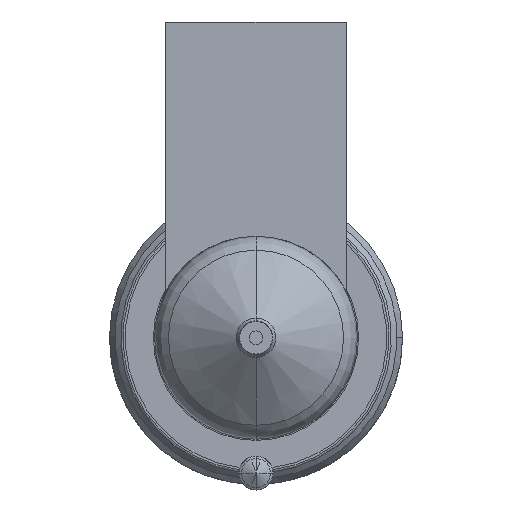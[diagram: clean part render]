
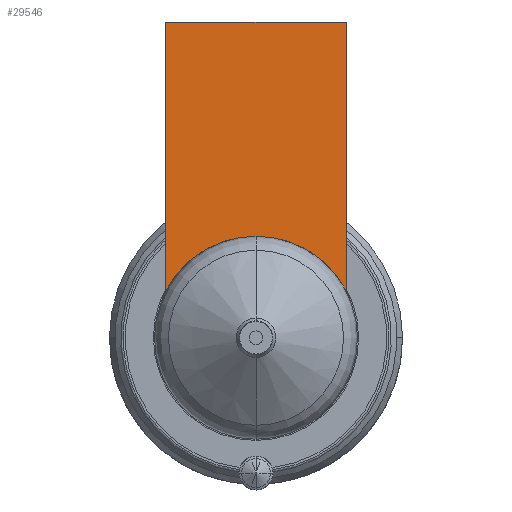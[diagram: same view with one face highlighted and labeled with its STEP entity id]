
A CAD part, front view. The second image highlights one B-rep face of the part: STEP entity #29546.
In plain terms, the highlighted planar face has unit normal (0, -1, 0).
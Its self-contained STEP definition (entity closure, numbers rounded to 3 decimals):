
#28893=DIRECTION('',(1.,0.,0.));
#28894=VECTOR('',#28893,16.);
#28895=CARTESIAN_POINT('',(-8.,-54.,28.));
#28896=LINE('',#28895,#28894);
#28901=CARTESIAN_POINT('',(0.,-54.,0.));
#28902=DIRECTION('',(0.,-1.,0.));
#28903=DIRECTION('',(0.889,0.,0.458));
#28904=AXIS2_PLACEMENT_3D('',#28901,#28902,#28903);
#28909=CARTESIAN_POINT('',(0.,-54.,0.));
#28910=DIRECTION('',(0.,-1.,0.));
#28911=DIRECTION('',(0.,0.,1.));
#28912=AXIS2_PLACEMENT_3D('',#28909,#28910,#28911);
#28938=DIRECTION('',(0.,0.,-1.));
#28939=VECTOR('',#28938,23.877);
#28940=CARTESIAN_POINT('',(-8.,-54.,28.));
#28941=LINE('',#28940,#28939);
#29418=DIRECTION('',(0.,0.,-1.));
#29419=VECTOR('',#29418,23.877);
#29420=CARTESIAN_POINT('',(8.,-54.,28.));
#29421=LINE('',#29420,#29419);
#29471=CARTESIAN_POINT('',(-8.,-54.,28.));
#29472=VERTEX_POINT('',#29471);
#29477=CARTESIAN_POINT('',(8.,-54.,28.));
#29478=VERTEX_POINT('',#29477);
#29481=CARTESIAN_POINT('',(-8.,-54.,4.123));
#29482=VERTEX_POINT('',#29481);
#29485=CARTESIAN_POINT('',(8.,-54.,4.123));
#29486=VERTEX_POINT('',#29485);
#29527=CARTESIAN_POINT('',(0.,-54.,9.));
#29528=VERTEX_POINT('',#29527);
#29529=CARTESIAN_POINT('',(0.,-54.,9.));
#29530=DIRECTION('',(0.,1.,0.));
#29531=DIRECTION('',(0.,0.,-1.));
#29532=AXIS2_PLACEMENT_3D('',#29529,#29530,#29531);
#29533=PLANE('',#29532);
#29535=ORIENTED_EDGE('',*,*,#29534,.F.);
#29537=ORIENTED_EDGE('',*,*,#29536,.T.);
#29539=ORIENTED_EDGE('',*,*,#29538,.T.);
#29541=ORIENTED_EDGE('',*,*,#29540,.T.);
#29543=ORIENTED_EDGE('',*,*,#29542,.T.);
#29544=EDGE_LOOP('',(#29535,#29537,#29539,#29541,#29543));
#29545=FACE_OUTER_BOUND('',#29544,.F.);
#29546=ADVANCED_FACE('',(#29545),#29533,.F.);
#28905=CIRCLE('',#28904,9.);
#28913=CIRCLE('',#28912,9.);
#29534=EDGE_CURVE('',#29472,#29482,#28941,.T.);
#29536=EDGE_CURVE('',#29472,#29478,#28896,.T.);
#29538=EDGE_CURVE('',#29478,#29486,#29421,.T.);
#29540=EDGE_CURVE('',#29486,#29528,#28905,.T.);
#29542=EDGE_CURVE('',#29528,#29482,#28913,.T.);
